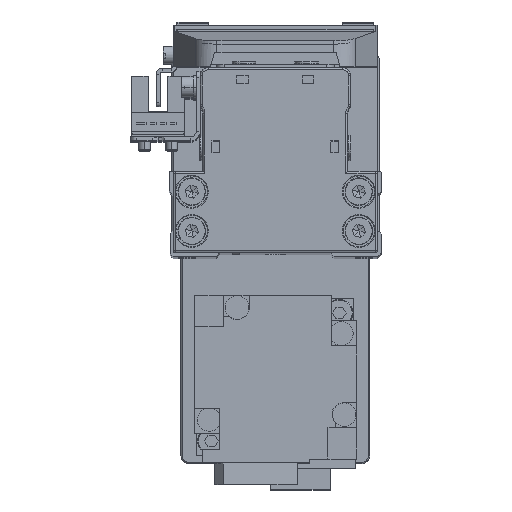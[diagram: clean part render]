
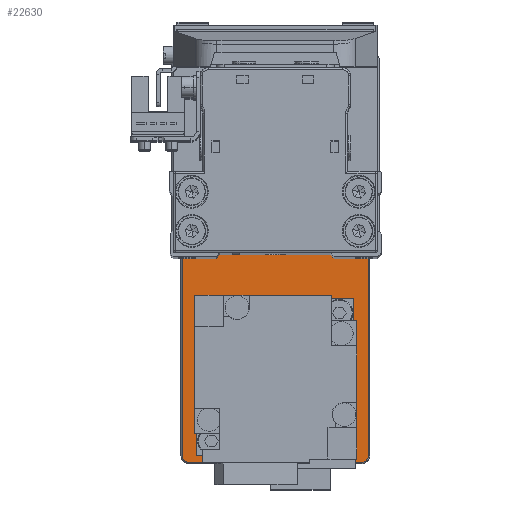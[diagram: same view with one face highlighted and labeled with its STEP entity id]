
A CAD part, top view. The second image highlights one B-rep face of the part: STEP entity #22630.
In plain terms, the highlighted planar face has unit normal (0, 0, 1).
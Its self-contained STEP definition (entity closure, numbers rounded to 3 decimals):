
#216 = DIRECTION ( 'NONE',  ( 1., 0., 0. ) ) ;
#861 = AXIS2_PLACEMENT_3D ( 'NONE', #38799, #11248, #23506 ) ;
#1056 = VERTEX_POINT ( 'NONE', #37137 ) ;
#1081 = DIRECTION ( 'NONE',  ( 0., 0., -1. ) ) ;
#2133 = CIRCLE ( 'NONE', #24575, 10.3 ) ;
#3069 = EDGE_CURVE ( 'NONE', #34966, #16245, #2133, .T. ) ;
#3994 = DIRECTION ( 'NONE',  ( 0., 0., 1. ) ) ;
#4186 = DIRECTION ( 'NONE',  ( 0., 0., 1. ) ) ;
#4417 = CARTESIAN_POINT ( 'NONE',  ( -28., 0., 5. ) ) ;
#4730 = LINE ( 'NONE', #16966, #28435 ) ;
#4735 = EDGE_CURVE ( 'NONE', #25751, #22326, #31763, .T. ) ;
#5215 = CARTESIAN_POINT ( 'NONE',  ( 30., 0., 5. ) ) ;
#6584 = CARTESIAN_POINT ( 'NONE',  ( -17.7, 0., 5. ) ) ;
#7269 = VERTEX_POINT ( 'NONE', #18318 ) ;
#7856 = DIRECTION ( 'NONE',  ( 1., 0., 0. ) ) ;
#7909 = CARTESIAN_POINT ( 'NONE',  ( 42.8, 0., 5. ) ) ;
#8419 = CARTESIAN_POINT ( 'NONE',  ( 51.7, 22., 5. ) ) ;
#8797 = CARTESIAN_POINT ( 'NONE',  ( -50., 22., 5. ) ) ;
#9368 = CARTESIAN_POINT ( 'NONE',  ( 50., -23.7, 5. ) ) ;
#9790 = CARTESIAN_POINT ( 'NONE',  ( -38.3, 0., 5. ) ) ;
#10380 = CIRCLE ( 'NONE', #32877, 12.8 ) ;
#10861 = PLANE ( 'NONE',  #18547 ) ;
#11248 = DIRECTION ( 'NONE',  ( 0., 0., -1. ) ) ;
#11355 = CARTESIAN_POINT ( 'NONE',  ( 50., -23.7, 5. ) ) ;
#11557 = CARTESIAN_POINT ( 'NONE',  ( -51.7, -22., 5. ) ) ;
#11865 = EDGE_CURVE ( 'NONE', #32864, #39139, #10380, .T. ) ;
#12140 = ORIENTED_EDGE ( 'NONE', *, *, #21582, .T. ) ;
#12337 = CIRCLE ( 'NONE', #34840, 12.8 ) ;
#13306 = DIRECTION ( 'NONE',  ( 1., 0., 0. ) ) ;
#13579 = ORIENTED_EDGE ( 'NONE', *, *, #3069, .T. ) ;
#13667 = EDGE_CURVE ( 'NONE', #39139, #32864, #12337, .T. ) ;
#13869 = FACE_BOUND ( 'NONE', #39496, .T. ) ;
#14259 = VERTEX_POINT ( 'NONE', #9368 ) ;
#14388 = AXIS2_PLACEMENT_3D ( 'NONE', #31535, #3994, #16222 ) ;
#15069 = LINE ( 'NONE', #27364, #33839 ) ;
#15094 = ORIENTED_EDGE ( 'NONE', *, *, #30606, .T. ) ;
#15465 = CARTESIAN_POINT ( 'NONE',  ( 50., -22., 5. ) ) ;
#16222 = DIRECTION ( 'NONE',  ( 1., 0., 0. ) ) ;
#16245 = VERTEX_POINT ( 'NONE', #9790 ) ;
#16306 = EDGE_CURVE ( 'NONE', #18699, #37705, #34619, .T. ) ;
#16413 = DIRECTION ( 'NONE',  ( 1., 0., 0. ) ) ;
#16652 = DIRECTION ( 'NONE',  ( 0., 0., -1. ) ) ;
#16966 = CARTESIAN_POINT ( 'NONE',  ( -50., 23.7, 5. ) ) ;
#17217 = AXIS2_PLACEMENT_3D ( 'NONE', #31720, #4186, #16413 ) ;
#17449 = DIRECTION ( 'NONE',  ( 0., 0., -1. ) ) ;
#17549 = ORIENTED_EDGE ( 'NONE', *, *, #19934, .T. ) ;
#17592 = CARTESIAN_POINT ( 'NONE',  ( -50., -23.7, 5. ) ) ;
#18144 = CIRCLE ( 'NONE', #861, 10.3 ) ;
#18149 = AXIS2_PLACEMENT_3D ( 'NONE', #15465, #27752, #216 ) ;
#18318 = CARTESIAN_POINT ( 'NONE',  ( 51.7, -22., 5. ) ) ;
#18547 = AXIS2_PLACEMENT_3D ( 'NONE', #23125, #35406, #7856 ) ;
#18699 = VERTEX_POINT ( 'NONE', #24544 ) ;
#19303 = AXIS2_PLACEMENT_3D ( 'NONE', #8797, #21038, #33346 ) ;
#19934 = EDGE_CURVE ( 'NONE', #1056, #24762, #36649, .T. ) ;
#20628 = EDGE_LOOP ( 'NONE', ( #13579, #25956 ) ) ;
#21038 = DIRECTION ( 'NONE',  ( 0., 0., 1. ) ) ;
#21582 = EDGE_CURVE ( 'NONE', #24762, #18699, #39131, .T. ) ;
#22326 = VERTEX_POINT ( 'NONE', #32034 ) ;
#22630 = ADVANCED_FACE ( 'NONE', ( #13869, #26151, #38430 ), #10861, .T. ) ;
#23125 = CARTESIAN_POINT ( 'NONE',  ( 0., 0., 5. ) ) ;
#23506 = DIRECTION ( 'NONE',  ( 1., 0., 0. ) ) ;
#23614 = DIRECTION ( 'NONE',  ( 1., 0., 0. ) ) ;
#23653 = ORIENTED_EDGE ( 'NONE', *, *, #16306, .T. ) ;
#23825 = DIRECTION ( 'NONE',  ( 0., -1., 0. ) ) ;
#24544 = CARTESIAN_POINT ( 'NONE',  ( -51.7, -22., 5. ) ) ;
#24575 = AXIS2_PLACEMENT_3D ( 'NONE', #4417, #16652, #28938 ) ;
#24762 = VERTEX_POINT ( 'NONE', #29090 ) ;
#25751 = VERTEX_POINT ( 'NONE', #8419 ) ;
#25799 = ORIENTED_EDGE ( 'NONE', *, *, #4735, .T. ) ;
#25956 = ORIENTED_EDGE ( 'NONE', *, *, #28913, .T. ) ;
#26151 = FACE_BOUND ( 'NONE', #20628, .T. ) ;
#27016 = ORIENTED_EDGE ( 'NONE', *, *, #34387, .T. ) ;
#27124 = VECTOR ( 'NONE', #23825, 1000. ) ;
#27191 = ORIENTED_EDGE ( 'NONE', *, *, #39713, .T. ) ;
#27364 = CARTESIAN_POINT ( 'NONE',  ( 51.7, 22., 5. ) ) ;
#27567 = CARTESIAN_POINT ( 'NONE',  ( 17.2, 0., 5. ) ) ;
#27752 = DIRECTION ( 'NONE',  ( 0., 0., 1. ) ) ;
#28435 = VECTOR ( 'NONE', #29256, 1000. ) ;
#28566 = EDGE_CURVE ( 'NONE', #22326, #1056, #4730, .T. ) ;
#28609 = CARTESIAN_POINT ( 'NONE',  ( 30., 0., 5. ) ) ;
#28913 = EDGE_CURVE ( 'NONE', #16245, #34966, #18144, .T. ) ;
#28938 = DIRECTION ( 'NONE',  ( 1., 0., 0. ) ) ;
#29090 = CARTESIAN_POINT ( 'NONE',  ( -51.7, 22., 5. ) ) ;
#29199 = VECTOR ( 'NONE', #23614, 1000. ) ;
#29256 = DIRECTION ( 'NONE',  ( -1., 0., 0. ) ) ;
#29745 = DIRECTION ( 'NONE',  ( 1., 0., 0. ) ) ;
#30606 = EDGE_CURVE ( 'NONE', #37705, #14259, #38915, .T. ) ;
#30967 = ORIENTED_EDGE ( 'NONE', *, *, #13667, .T. ) ;
#31535 = CARTESIAN_POINT ( 'NONE',  ( 50., 22., 5. ) ) ;
#31720 = CARTESIAN_POINT ( 'NONE',  ( -50., -22., 5. ) ) ;
#31763 = CIRCLE ( 'NONE', #14388, 1.7 ) ;
#32034 = CARTESIAN_POINT ( 'NONE',  ( 50., 23.7, 5. ) ) ;
#32586 = ORIENTED_EDGE ( 'NONE', *, *, #11865, .T. ) ;
#32864 = VERTEX_POINT ( 'NONE', #27567 ) ;
#32877 = AXIS2_PLACEMENT_3D ( 'NONE', #28609, #1081, #13306 ) ;
#33041 = ORIENTED_EDGE ( 'NONE', *, *, #28566, .T. ) ;
#33346 = DIRECTION ( 'NONE',  ( 1., 0., 0. ) ) ;
#33839 = VECTOR ( 'NONE', #39625, 1000. ) ;
#33876 = EDGE_LOOP ( 'NONE', ( #15094, #27016, #27191, #25799, #33041, #17549, #12140, #23653 ) ) ;
#34387 = EDGE_CURVE ( 'NONE', #14259, #7269, #35515, .T. ) ;
#34619 = CIRCLE ( 'NONE', #17217, 1.7 ) ;
#34840 = AXIS2_PLACEMENT_3D ( 'NONE', #5215, #17449, #29745 ) ;
#34966 = VERTEX_POINT ( 'NONE', #6584 ) ;
#35406 = DIRECTION ( 'NONE',  ( 0., 0., 1. ) ) ;
#35515 = CIRCLE ( 'NONE', #18149, 1.7 ) ;
#36649 = CIRCLE ( 'NONE', #19303, 1.7 ) ;
#37137 = CARTESIAN_POINT ( 'NONE',  ( -50., 23.7, 5. ) ) ;
#37705 = VERTEX_POINT ( 'NONE', #17592 ) ;
#38430 = FACE_OUTER_BOUND ( 'NONE', #33876, .T. ) ;
#38799 = CARTESIAN_POINT ( 'NONE',  ( -28., 0., 5. ) ) ;
#38915 = LINE ( 'NONE', #11355, #29199 ) ;
#39131 = LINE ( 'NONE', #11557, #27124 ) ;
#39139 = VERTEX_POINT ( 'NONE', #7909 ) ;
#39496 = EDGE_LOOP ( 'NONE', ( #30967, #32586 ) ) ;
#39625 = DIRECTION ( 'NONE',  ( 0., 1., 0. ) ) ;
#39713 = EDGE_CURVE ( 'NONE', #7269, #25751, #15069, .T. ) ;
